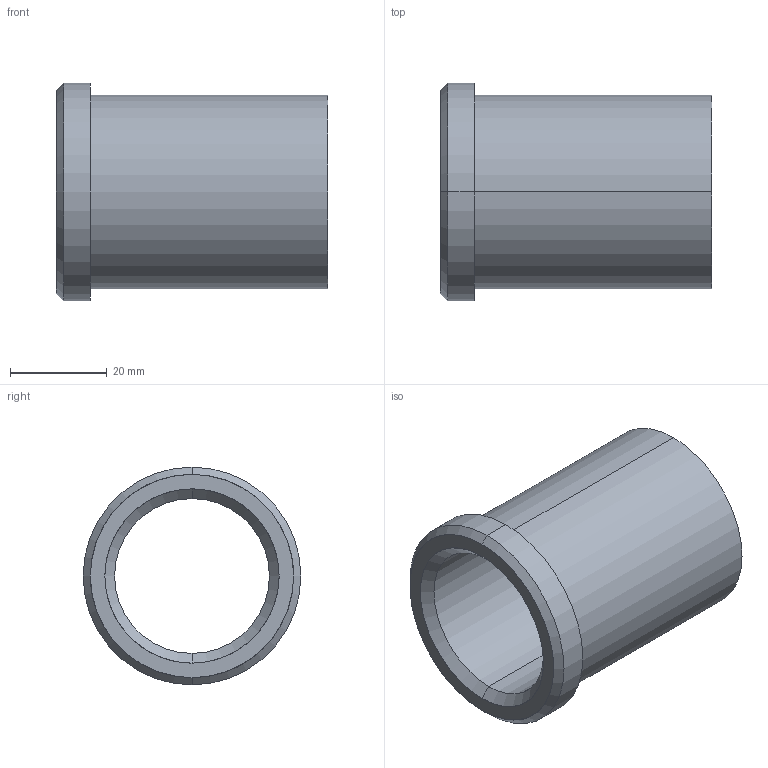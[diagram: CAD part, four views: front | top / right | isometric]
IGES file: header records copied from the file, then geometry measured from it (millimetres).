
Start section: START RECORD GO HERE.
Global section: file name: 353-32X56.igs; native system: DASSAULT SYSTEMES CATIA V5 R20 - www.3ds.com; preprocessor: CATIA Version 5 Release 20 ; author: Utente; organization: NB04-ASUS; date: 20210512.205616; units: millimetre
Bounding box: 56 x 45 x 45 mm (x, y, z)
Surface area: 14025 mm2 (no closed solid volume)
Topology: 0 solids, 0 shells, 15 faces, 96 edges, 96 vertices
Faces by surface type: revolution 12, plane 3
